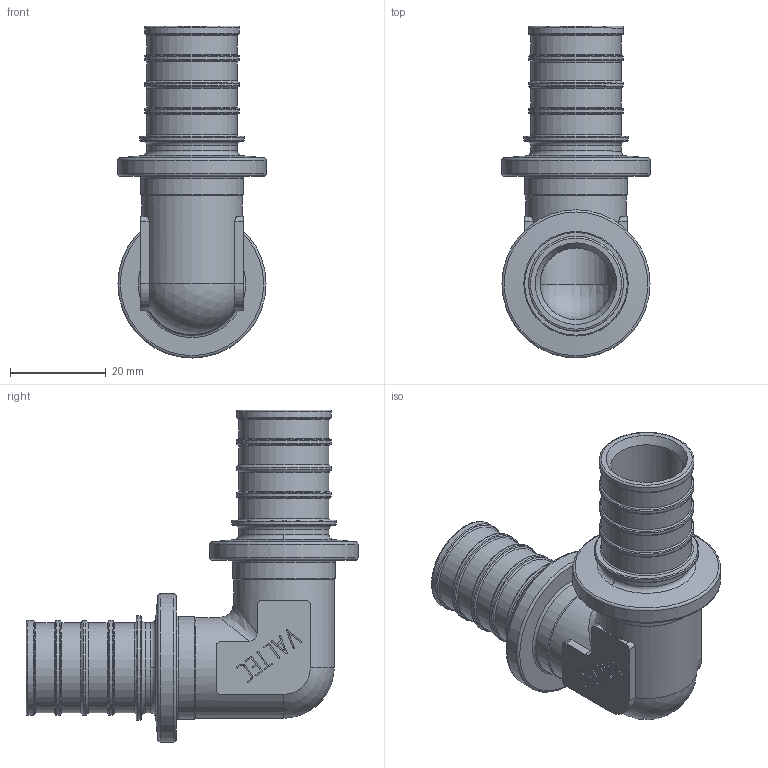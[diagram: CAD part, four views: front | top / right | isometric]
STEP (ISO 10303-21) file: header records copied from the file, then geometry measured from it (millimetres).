
FILE_DESCRIPTION(('STEP AP203'), '1');
FILE_NAME('ÂÐ.752211.003 - VTm.451.G.002525 - Ôèò. àêñ. óãîë.', '', ('UNSPECIFIED'), ('UNSPECIFIED'), 'C3D Converter', 'C3D Toolkit', '');
FILE_SCHEMA(('CONFIG_CONTROL_DESIGN'));
Length unit declared in the file: millimetre
Products named in the file (1): ВР.752211.003
Bounding box: 30.9 x 69.25 x 69.25 mm (x, y, z)
Volume: 18531.6 mm3; surface area: 14438.4 mm2
Topology: 1 solids, 1 shells, 355 faces, 927 edges, 592 vertices
Faces by surface type: extrusion 142, plane 116, torus 48, cylinder 40, cone 6, sphere 2, bspline 1
Full cylindrical faces by diameter (mm): 15 x2, 18.8 x10, 19.8 x8, 21 x2, 21.4 x2, 21.8 x2, 30.9 x2
Entity records: 13857 total; most frequent: CARTESIAN_POINT 3097, ORIENTED_EDGE 1694, DIRECTION 1234, EDGE_CURVE 847, VERTEX_POINT 592, VECTOR 568, EDGE_LOOP 455, B_SPLINE_CURVE_WITH_KNOTS 442
